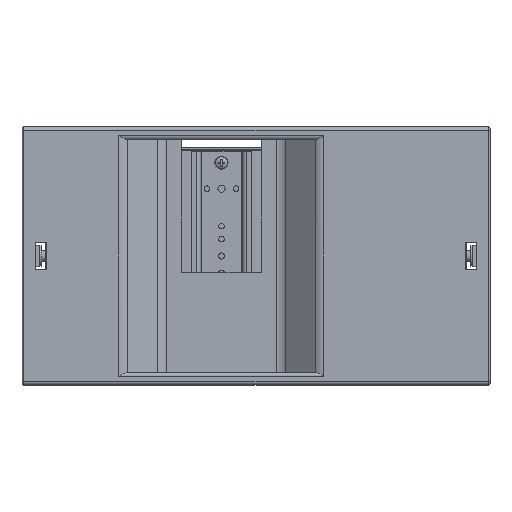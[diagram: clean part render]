
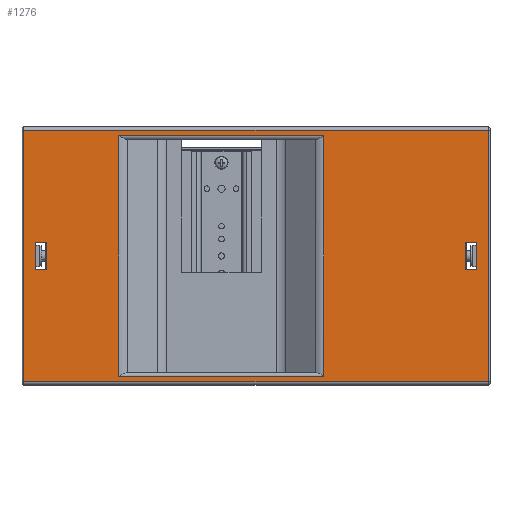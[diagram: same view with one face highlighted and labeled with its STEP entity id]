
A CAD part, front view. The second image highlights one B-rep face of the part: STEP entity #1276.
In plain terms, the highlighted planar face has unit normal (0, -1, 0).
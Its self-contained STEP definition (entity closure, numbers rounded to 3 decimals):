
#727=FACE_BOUND('',#2811,.T.);
#728=FACE_BOUND('',#2812,.T.);
#729=FACE_BOUND('',#2813,.T.);
#730=FACE_BOUND('',#2814,.T.);
#1276=ADVANCED_FACE('',(#727,#728,#729,#730),#1618,.T.);
#1618=PLANE('',#11209);
#2811=EDGE_LOOP('',(#5825,#5826,#5827,#5828));
#2812=EDGE_LOOP('',(#5829,#5830,#5831,#5832));
#2813=EDGE_LOOP('',(#5833,#5834,#5835,#5836));
#2814=EDGE_LOOP('',(#5837,#5838,#5839,#5840));
#5825=ORIENTED_EDGE('',*,*,#8245,.T.);
#5826=ORIENTED_EDGE('',*,*,#8246,.T.);
#5827=ORIENTED_EDGE('',*,*,#8240,.T.);
#5828=ORIENTED_EDGE('',*,*,#8243,.T.);
#5829=ORIENTED_EDGE('',*,*,#8341,.T.);
#5830=ORIENTED_EDGE('',*,*,#8344,.T.);
#5831=ORIENTED_EDGE('',*,*,#8348,.T.);
#5832=ORIENTED_EDGE('',*,*,#8337,.T.);
#5833=ORIENTED_EDGE('',*,*,#8273,.T.);
#5834=ORIENTED_EDGE('',*,*,#8275,.T.);
#5835=ORIENTED_EDGE('',*,*,#8266,.T.);
#5836=ORIENTED_EDGE('',*,*,#8270,.T.);
#5837=ORIENTED_EDGE('',*,*,#8353,.T.);
#5838=ORIENTED_EDGE('',*,*,#8354,.T.);
#5839=ORIENTED_EDGE('',*,*,#8355,.T.);
#5840=ORIENTED_EDGE('',*,*,#8356,.F.);
#6915=VERTEX_POINT('',#17975);
#6916=VERTEX_POINT('',#17977);
#6917=VERTEX_POINT('',#17991);
#6918=VERTEX_POINT('',#18000);
#6932=VERTEX_POINT('',#18043);
#6933=VERTEX_POINT('',#18045);
#6935=VERTEX_POINT('',#18051);
#6937=VERTEX_POINT('',#18057);
#6974=VERTEX_POINT('',#19484);
#6975=VERTEX_POINT('',#19486);
#6977=VERTEX_POINT('',#19492);
#6979=VERTEX_POINT('',#19498);
#6983=VERTEX_POINT('',#19516);
#6984=VERTEX_POINT('',#19517);
#6985=VERTEX_POINT('',#19519);
#6986=VERTEX_POINT('',#19521);
#8240=EDGE_CURVE('',#6916,#6915,#9203,.T.);
#8243=EDGE_CURVE('',#6915,#6917,#9204,.T.);
#8245=EDGE_CURVE('',#6917,#6918,#9205,.T.);
#8246=EDGE_CURVE('',#6918,#6916,#9206,.T.);
#8266=EDGE_CURVE('',#6933,#6932,#9222,.T.);
#8270=EDGE_CURVE('',#6932,#6935,#9226,.T.);
#8273=EDGE_CURVE('',#6935,#6937,#9229,.T.);
#8275=EDGE_CURVE('',#6937,#6933,#9231,.T.);
#8337=EDGE_CURVE('',#6975,#6974,#9275,.T.);
#8341=EDGE_CURVE('',#6974,#6977,#9279,.T.);
#8344=EDGE_CURVE('',#6977,#6979,#9282,.T.);
#8348=EDGE_CURVE('',#6979,#6975,#9286,.T.);
#8353=EDGE_CURVE('',#6983,#6984,#9289,.T.);
#8354=EDGE_CURVE('',#6984,#6985,#9290,.T.);
#8355=EDGE_CURVE('',#6985,#6986,#9291,.T.);
#8356=EDGE_CURVE('',#6983,#6986,#9292,.T.);
#9203=LINE('',#17976,#10119);
#9204=LINE('',#17992,#10120);
#9205=LINE('',#18001,#10121);
#9206=LINE('',#18003,#10122);
#9222=LINE('',#18044,#10138);
#9226=LINE('',#18052,#10142);
#9229=LINE('',#18058,#10145);
#9231=LINE('',#18061,#10147);
#9275=LINE('',#19485,#10191);
#9279=LINE('',#19493,#10195);
#9282=LINE('',#19499,#10198);
#9286=LINE('',#19505,#10202);
#9289=LINE('',#19515,#10205);
#9290=LINE('',#19518,#10206);
#9291=LINE('',#19520,#10207);
#9292=LINE('',#19522,#10208);
#10119=VECTOR('',#13799,1.);
#10120=VECTOR('',#13802,1.);
#10121=VECTOR('',#13805,1.);
#10122=VECTOR('',#13808,1.);
#10138=VECTOR('',#13846,1.);
#10142=VECTOR('',#13852,1.);
#10145=VECTOR('',#13857,1.);
#10147=VECTOR('',#13861,1.);
#10191=VECTOR('',#13943,1.);
#10195=VECTOR('',#13949,1.);
#10198=VECTOR('',#13954,1.);
#10202=VECTOR('',#13960,1.);
#10205=VECTOR('',#13973,1.);
#10206=VECTOR('',#13974,1.);
#10207=VECTOR('',#13975,1.);
#10208=VECTOR('',#13976,1.);
#11209=AXIS2_PLACEMENT_3D('',#19523,#13977,#13978);
#13799=DIRECTION('',(1.,0.,0.));
#13802=DIRECTION('',(0.,0.,-1.));
#13805=DIRECTION('',(-1.,0.,0.));
#13808=DIRECTION('',(0.,0.,1.));
#13846=DIRECTION('',(1.,0.,0.));
#13852=DIRECTION('',(0.,0.,-1.));
#13857=DIRECTION('',(-1.,0.,0.));
#13861=DIRECTION('',(0.,0.,1.));
#13943=DIRECTION('',(-1.,0.,0.));
#13949=DIRECTION('',(0.,0.,1.));
#13954=DIRECTION('',(1.,0.,0.));
#13960=DIRECTION('',(0.,0.,-1.));
#13973=DIRECTION('',(-1.,0.,0.));
#13974=DIRECTION('',(0.,0.,-1.));
#13975=DIRECTION('',(1.,0.,0.));
#13976=DIRECTION('',(0.,0.,-1.));
#13977=DIRECTION('',(0.,-1.,0.));
#13978=DIRECTION('',(-1.,0.,0.));
#17975=CARTESIAN_POINT('',(39.363,-51.,81.05));
#17976=CARTESIAN_POINT('',(-79.363,-51.,81.05));
#17977=CARTESIAN_POINT('',(-79.363,-51.,81.05));
#17991=CARTESIAN_POINT('',(39.363,-51.,-57.95));
#17992=CARTESIAN_POINT('',(39.363,-51.,-57.95));
#18000=CARTESIAN_POINT('',(-79.363,-51.,-57.95));
#18001=CARTESIAN_POINT('',(-79.363,-51.,-57.95));
#18003=CARTESIAN_POINT('',(-79.363,-51.,-57.95));
#18043=CARTESIAN_POINT('',(-121.4,-51.,19.55));
#18044=CARTESIAN_POINT('',(267.897,-51.,19.55));
#18045=CARTESIAN_POINT('',(-127.896,-51.,19.55));
#18051=CARTESIAN_POINT('',(-121.4,-51.,3.55));
#18052=CARTESIAN_POINT('',(-121.4,-51.,84.31));
#18057=CARTESIAN_POINT('',(-127.896,-51.,3.55));
#18058=CARTESIAN_POINT('',(274.51,-51.,3.55));
#18061=CARTESIAN_POINT('',(-127.896,-51.,84.31));
#19484=CARTESIAN_POINT('',(121.4,-51.,3.55));
#19485=CARTESIAN_POINT('',(204.51,-51.,3.55));
#19486=CARTESIAN_POINT('',(127.896,-51.,3.55));
#19492=CARTESIAN_POINT('',(121.4,-51.,19.55));
#19493=CARTESIAN_POINT('',(121.4,-51.,19.55));
#19498=CARTESIAN_POINT('',(127.896,-51.,19.55));
#19499=CARTESIAN_POINT('',(204.51,-51.,19.55));
#19505=CARTESIAN_POINT('',(127.896,-51.,19.56));
#19515=CARTESIAN_POINT('',(204.51,-51.,84.3));
#19516=CARTESIAN_POINT('',(134.5,-51.,84.3));
#19517=CARTESIAN_POINT('',(-134.5,-51.,84.3));
#19518=CARTESIAN_POINT('',(-134.5,-51.,84.3));
#19519=CARTESIAN_POINT('',(-134.5,-51.,-61.2));
#19520=CARTESIAN_POINT('',(-204.51,-51.,-61.2));
#19521=CARTESIAN_POINT('',(134.5,-51.,-61.2));
#19522=CARTESIAN_POINT('',(134.5,-51.,84.3));
#19523=CARTESIAN_POINT('',(204.51,-51.,84.31));
